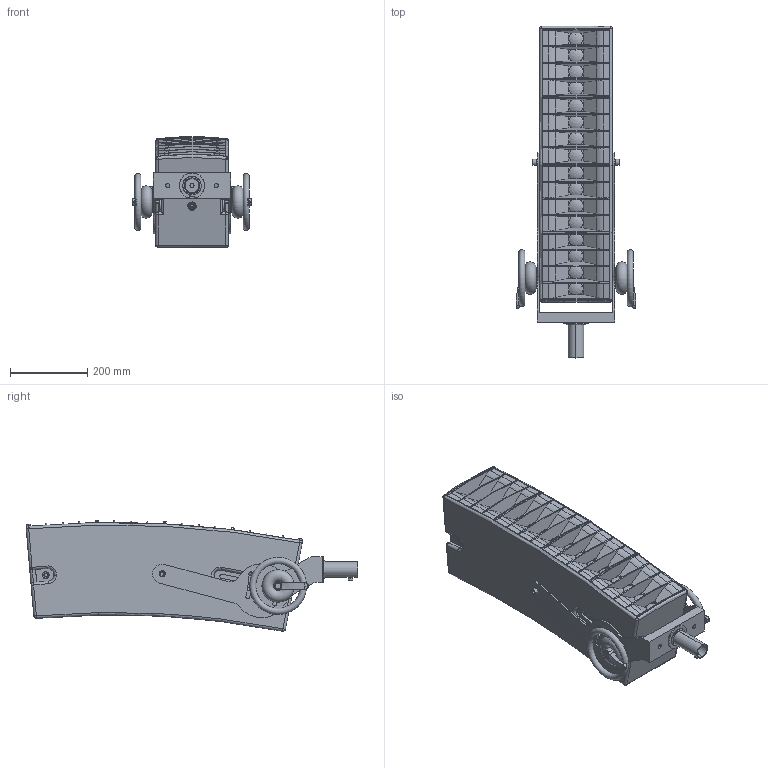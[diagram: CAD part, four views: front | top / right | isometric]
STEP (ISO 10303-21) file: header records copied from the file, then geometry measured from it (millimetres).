
FILE_DESCRIPTION (( 'STEP AP203' ), '1' );
FILE_NAME ('Seeburg_GL16c_Bracket-ver.STEP', '2012-10-15T13:53:13', ( 'Fabian' ), ( '' ), 'SwSTEP 2.0', 'SolidWorks 2009', '' );
FILE_SCHEMA (( 'CONFIG_CONTROL_DESIGN' ));
Products named in the file (2): GL16c_Bracket-ver; Seeburg_GL16c_Bracket-ver
Assembly tree (1 placements, depth 2):
  Seeburg_GL16c_Bracket-ver
    GL16c_Bracket-ver
Bounding box: 310.25 x 861.26 x 286.99 mm (x, y, z)
Volume: 11253642.7 mm3; surface area: 2099140.5 mm2
Topology: 59 solids, 59 shells, 1319 faces, 3394 edges, 2178 vertices
Faces by surface type: plane 570, cylinder 544, cone 107, torus 50, sphere 44, bspline 4
Entity records: 47852 total; most frequent: CARTESIAN_POINT 15984, ORIENTED_EDGE 6684, DIRECTION 6512, EDGE_CURVE 3342, AXIS2_PLACEMENT_3D 2351, VERTEX_POINT 2146, LINE 1810, VECTOR 1810
